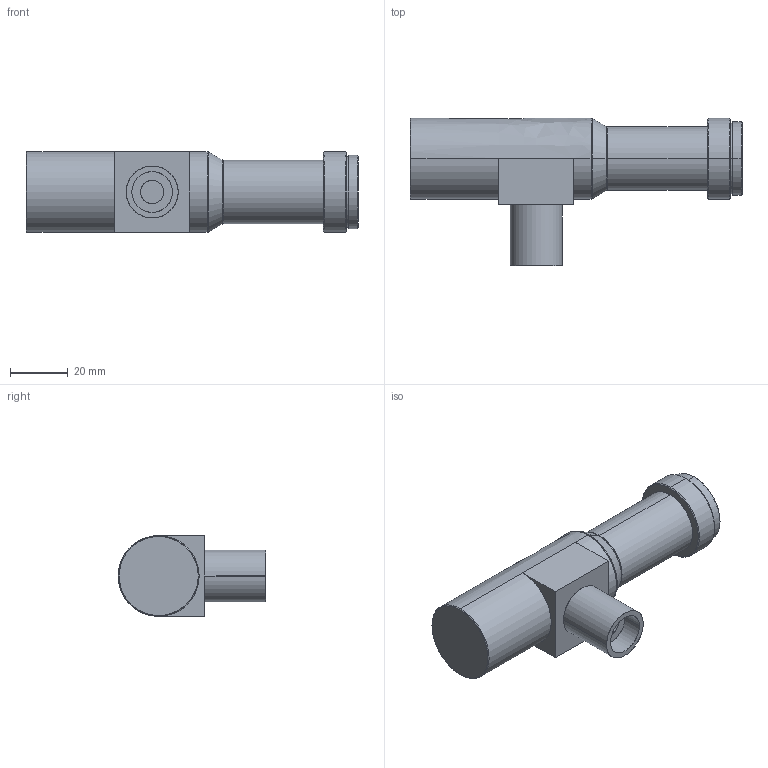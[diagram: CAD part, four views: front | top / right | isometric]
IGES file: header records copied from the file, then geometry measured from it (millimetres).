
Start section: SolidWorks IGES file using analytic representation for surfaces
Global section: file name: C:\Users\16255\Desktop\WWH15-63CTV3.IGS; native system: SolidWorks 2017; preprocessor: SolidWorks 2017; author: 16255; date: 210909.153111; units: millimetre
Bounding box: 115 x 51.1 x 28 mm (x, y, z)
Surface area: 13419.9 mm2 (no closed solid volume)
Topology: 0 solids, 0 shells, 44 faces, 658 edges, 658 vertices
Faces by surface type: revolution 27, bspline 17
